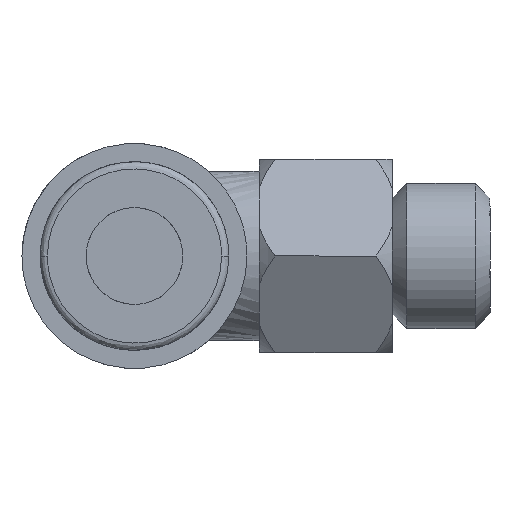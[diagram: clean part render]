
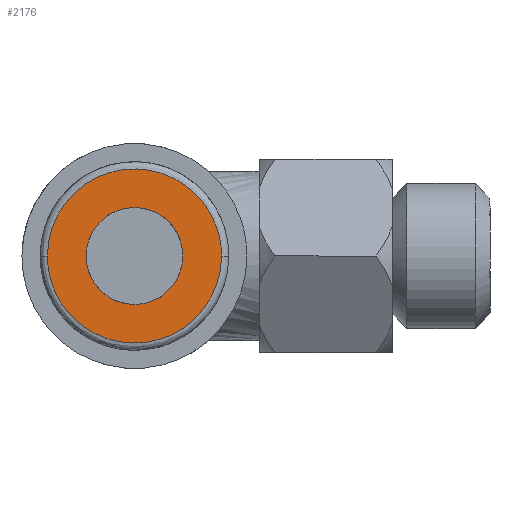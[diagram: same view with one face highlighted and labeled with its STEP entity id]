
A CAD part, left-side view. The second image highlights one B-rep face of the part: STEP entity #2176.
In plain terms, the highlighted planar face has unit normal (-1, 0, 0).
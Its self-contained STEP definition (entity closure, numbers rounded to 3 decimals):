
#50 = CARTESIAN_POINT ( 'NONE',  ( -15.6, 7.05, 0. ) ) ;
#51 = CARTESIAN_POINT ( 'NONE',  ( -15.6, 12.396, 1.01 ) ) ;
#78 = CARTESIAN_POINT ( 'NONE',  ( -15.6, 14.25, 0. ) ) ;
#80 = CARTESIAN_POINT ( 'NONE',  ( -15.6, 12.65, -0.265 ) ) ;
#106 = FACE_BOUND ( 'NONE', #1807, .T. ) ;
#107 = CARTESIAN_POINT ( 'NONE',  ( -15.6, 12.65, 0. ) ) ;
#235 = EDGE_CURVE ( 'NONE', #1789, #1069, #812, .T. ) ;
#245 = CARTESIAN_POINT ( 'NONE',  ( -15.6, 12.396, -1.01 ) ) ;
#278 = CARTESIAN_POINT ( 'NONE',  ( -15.6, 8.701, 0.521 ) ) ;
#291 = CARTESIAN_POINT ( 'NONE',  ( -15.6, 12.252, -1.227 ) ) ;
#306 = CARTESIAN_POINT ( 'NONE',  ( -15.6, 14.25, -7.2 ) ) ;
#307 = CARTESIAN_POINT ( 'NONE',  ( -15.6, 9.048, 1.227 ) ) ;
#352 = B_SPLINE_CURVE_WITH_KNOTS ( 'NONE', 3,
 ( #1756, #2409, #2174, #2425, #1153, #2585, #1535, #1993, #2597, #1966, #1348, #2382, #690, #291, #245, #1786, #80, #2204 ),
 .UNSPECIFIED., .F., .F.,
 ( 4, 2, 2, 2, 2, 2, 2, 2, 4 ),
 ( 0.5, 0.563, 0.625, 0.688, 0.75, 0.813, 0.875, 0.938, 1. ),
 .UNSPECIFIED. ) ;
#452 = EDGE_CURVE ( 'NONE', #486, #2056, #456, .T. ) ;
#456 =( BOUNDED_CURVE ( )  B_SPLINE_CURVE ( 3, ( #78, #2624, #891, #716 ),
 .UNSPECIFIED., .F., .F. ) 
 B_SPLINE_CURVE_WITH_KNOTS ( ( 4, 4 ),
 ( 0., 0.5 ),
 .UNSPECIFIED. ) 
 CURVE ( )  GEOMETRIC_REPRESENTATION_ITEM ( )  RATIONAL_B_SPLINE_CURVE ( ( 1., 0.333, 0.333, 1. ) ) 
 REPRESENTATION_ITEM ( '' )  );
#486 = VERTEX_POINT ( 'NONE', #1115 ) ;
#550 = FACE_OUTER_BOUND ( 'NONE', #1271, .T. ) ;
#690 = CARTESIAN_POINT ( 'NONE',  ( -15.6, 11.877, -1.601 ) ) ;
#716 = CARTESIAN_POINT ( 'NONE',  ( -15.6, 7.05, 0. ) ) ;
#752 =( BOUNDED_CURVE ( )  B_SPLINE_CURVE ( 3, ( #1364, #949, #306, #2245 ),
 .UNSPECIFIED., .F., .T. ) 
 B_SPLINE_CURVE_WITH_KNOTS ( ( 4, 4 ),
 ( 0.5, 1. ),
 .UNSPECIFIED. ) 
 CURVE ( )  GEOMETRIC_REPRESENTATION_ITEM ( )  RATIONAL_B_SPLINE_CURVE ( ( 1., 0.333, 0.333, 1. ) ) 
 REPRESENTATION_ITEM ( '' )  );
#812 = B_SPLINE_CURVE_WITH_KNOTS ( 'NONE', 3,
 ( #107, #1788, #1596, #51, #2629, #1802, #2206, #922, #1141, #2223, #1336, #1126, #1550, #307, #1772, #278, #1967, #907 ),
 .UNSPECIFIED., .F., .F.,
 ( 4, 2, 2, 2, 2, 2, 2, 2, 4 ),
 ( 0., 0.063, 0.125, 0.188, 0.25, 0.313, 0.375, 0.438, 0.5 ),
 .UNSPECIFIED. ) ;
#829 = EDGE_CURVE ( 'NONE', #1069, #1789, #352, .T. ) ;
#891 = CARTESIAN_POINT ( 'NONE',  ( -15.6, 7.05, 7.2 ) ) ;
#907 = CARTESIAN_POINT ( 'NONE',  ( -15.6, 8.65, 0. ) ) ;
#922 = CARTESIAN_POINT ( 'NONE',  ( -15.6, 11.171, 1.949 ) ) ;
#949 = CARTESIAN_POINT ( 'NONE',  ( -15.6, 7.05, -7.2 ) ) ;
#1069 = VERTEX_POINT ( 'NONE', #2593 ) ;
#1115 = CARTESIAN_POINT ( 'NONE',  ( -15.6, 14.25, 0. ) ) ;
#1126 = CARTESIAN_POINT ( 'NONE',  ( -15.6, 9.64, 1.746 ) ) ;
#1141 = CARTESIAN_POINT ( 'NONE',  ( -15.6, 10.915, 2. ) ) ;
#1153 = CARTESIAN_POINT ( 'NONE',  ( -15.6, 9.049, -1.227 ) ) ;
#1154 = DIRECTION ( 'NONE',  ( 0., -1., 0. ) ) ;
#1236 = ORIENTED_EDGE ( 'NONE', *, *, #2162, .F. ) ;
#1251 = ORIENTED_EDGE ( 'NONE', *, *, #235, .T. ) ;
#1271 = EDGE_LOOP ( 'NONE', ( #1498, #1236 ) ) ;
#1336 = CARTESIAN_POINT ( 'NONE',  ( -15.6, 10.129, 1.949 ) ) ;
#1348 = CARTESIAN_POINT ( 'NONE',  ( -15.6, 11.171, -1.949 ) ) ;
#1364 = CARTESIAN_POINT ( 'NONE',  ( -15.6, 7.05, 0. ) ) ;
#1402 = PLANE ( 'NONE',  #2114 ) ;
#1498 = ORIENTED_EDGE ( 'NONE', *, *, #452, .F. ) ;
#1535 = CARTESIAN_POINT ( 'NONE',  ( -15.6, 9.64, -1.746 ) ) ;
#1550 = CARTESIAN_POINT ( 'NONE',  ( -15.6, 9.423, 1.601 ) ) ;
#1596 = CARTESIAN_POINT ( 'NONE',  ( -15.6, 12.599, 0.521 ) ) ;
#1756 = CARTESIAN_POINT ( 'NONE',  ( -15.6, 8.65, 0. ) ) ;
#1772 = CARTESIAN_POINT ( 'NONE',  ( -15.6, 8.904, 1.01 ) ) ;
#1786 = CARTESIAN_POINT ( 'NONE',  ( -15.6, 12.599, -0.521 ) ) ;
#1788 = CARTESIAN_POINT ( 'NONE',  ( -15.6, 12.65, 0.265 ) ) ;
#1789 = VERTEX_POINT ( 'NONE', #1943 ) ;
#1802 = CARTESIAN_POINT ( 'NONE',  ( -15.6, 11.877, 1.602 ) ) ;
#1807 = EDGE_LOOP ( 'NONE', ( #1251, #2415 ) ) ;
#1943 = CARTESIAN_POINT ( 'NONE',  ( -15.6, 12.65, 0. ) ) ;
#1966 = CARTESIAN_POINT ( 'NONE',  ( -15.6, 10.915, -2. ) ) ;
#1967 = CARTESIAN_POINT ( 'NONE',  ( -15.6, 8.65, 0.265 ) ) ;
#1993 = CARTESIAN_POINT ( 'NONE',  ( -15.6, 10.129, -1.949 ) ) ;
#2056 = VERTEX_POINT ( 'NONE', #50 ) ;
#2114 = AXIS2_PLACEMENT_3D ( 'NONE', #2259, #2221, #1154 ) ;
#2162 = EDGE_CURVE ( 'NONE', #2056, #486, #752, .T. ) ;
#2174 = CARTESIAN_POINT ( 'NONE',  ( -15.6, 8.701, -0.521 ) ) ;
#2176 = ADVANCED_FACE ( 'NONE', ( #106, #550 ), #1402, .T. ) ;
#2204 = CARTESIAN_POINT ( 'NONE',  ( -15.6, 12.65, 0. ) ) ;
#2206 = CARTESIAN_POINT ( 'NONE',  ( -15.6, 11.66, 1.746 ) ) ;
#2221 = DIRECTION ( 'NONE',  ( -1., 0., 0. ) ) ;
#2223 = CARTESIAN_POINT ( 'NONE',  ( -15.6, 10.385, 2. ) ) ;
#2245 = CARTESIAN_POINT ( 'NONE',  ( -15.6, 14.25, 0. ) ) ;
#2259 = CARTESIAN_POINT ( 'NONE',  ( -15.6, 14.293, -3.643 ) ) ;
#2382 = CARTESIAN_POINT ( 'NONE',  ( -15.6, 11.66, -1.746 ) ) ;
#2409 = CARTESIAN_POINT ( 'NONE',  ( -15.6, 8.65, -0.265 ) ) ;
#2415 = ORIENTED_EDGE ( 'NONE', *, *, #829, .T. ) ;
#2425 = CARTESIAN_POINT ( 'NONE',  ( -15.6, 8.904, -1.01 ) ) ;
#2585 = CARTESIAN_POINT ( 'NONE',  ( -15.6, 9.423, -1.602 ) ) ;
#2593 = CARTESIAN_POINT ( 'NONE',  ( -15.6, 8.65, 0. ) ) ;
#2597 = CARTESIAN_POINT ( 'NONE',  ( -15.6, 10.385, -2. ) ) ;
#2624 = CARTESIAN_POINT ( 'NONE',  ( -15.6, 14.25, 7.2 ) ) ;
#2629 = CARTESIAN_POINT ( 'NONE',  ( -15.6, 12.251, 1.227 ) ) ;
